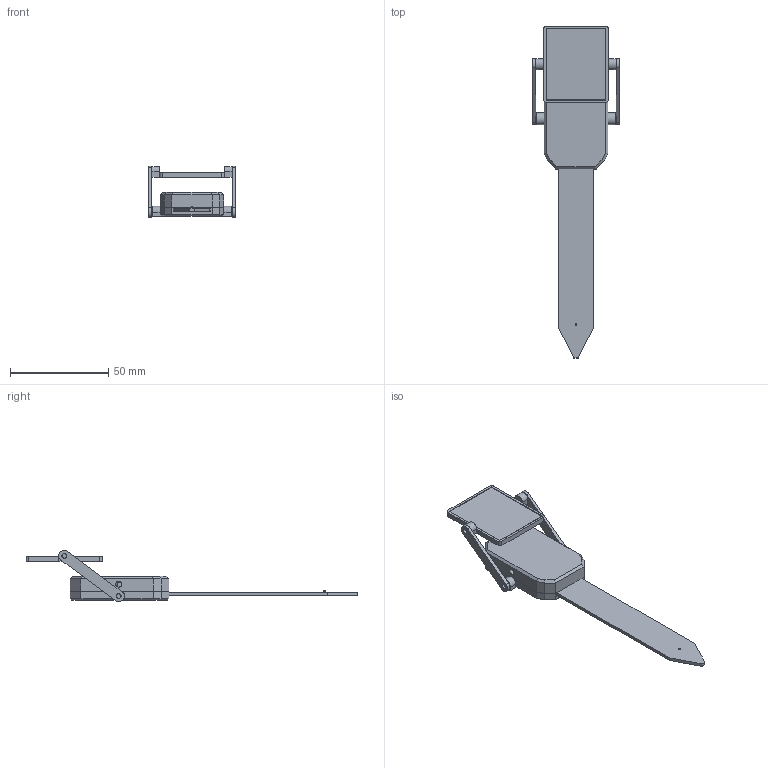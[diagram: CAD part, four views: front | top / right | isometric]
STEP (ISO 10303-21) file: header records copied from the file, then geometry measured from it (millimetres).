
FILE_DESCRIPTION(('Open CASCADE Model'),'2;1');
FILE_NAME('Open CASCADE Shape Model','2026-10-30T16:43:30',('Author'),( 'Open CASCADE'),'Open CASCADE STEP processor 8.0','Open CASCADE 8.0' ,'Unknown');
FILE_SCHEMA(('AP242_MANAGED_MODEL_BASED_3D_ENGINEERING_MIM_LF {1 0 10303 442 1 1 4 }' ));
Length unit declared in the file: millimetre
Products named in the file (8): MSV4 Minimum Profile Arm Base; MSV4 Minimum Profile Arm Lid; MSV4 Solar Arm Left; MSV4 Solar Arm Right; MSV4 36 x 30 Solar Panel Frame; MSV4 PCB - Corrected 1.6 mm Reference; 10 x 20 x 3 mm Top-Side Battery Placement Reference; 36 x 30 mm Solar Panel Reference
Bounding box: 44 x 168.6 x 26.09 mm (x, y, z)
Volume: 16548.7 mm3; surface area: 25273.2 mm2
Topology: 240 solids, 240 shells, 3490 faces, 8786 edges, 5808 vertices
Faces by surface type: plane 2512, cylinder 490, bspline 368, extrusion 92, sphere 24, torus 4
Full cylindrical faces by diameter (mm): 0.137 x2, 0.222 x2, 0.268 x2, 1.6 x2, 2.4 x4, 2.9 x4, 3 x1
Entity records: 228500 total; most frequent: CARTESIAN_POINT 54355, DIRECTION 29792, VECTOR 21088, LINE 20996, ORIENTED_EDGE 17572, PCURVE 17572, DEFINITIONAL_REPRESENTATION 17572, EDGE_CURVE 8786
